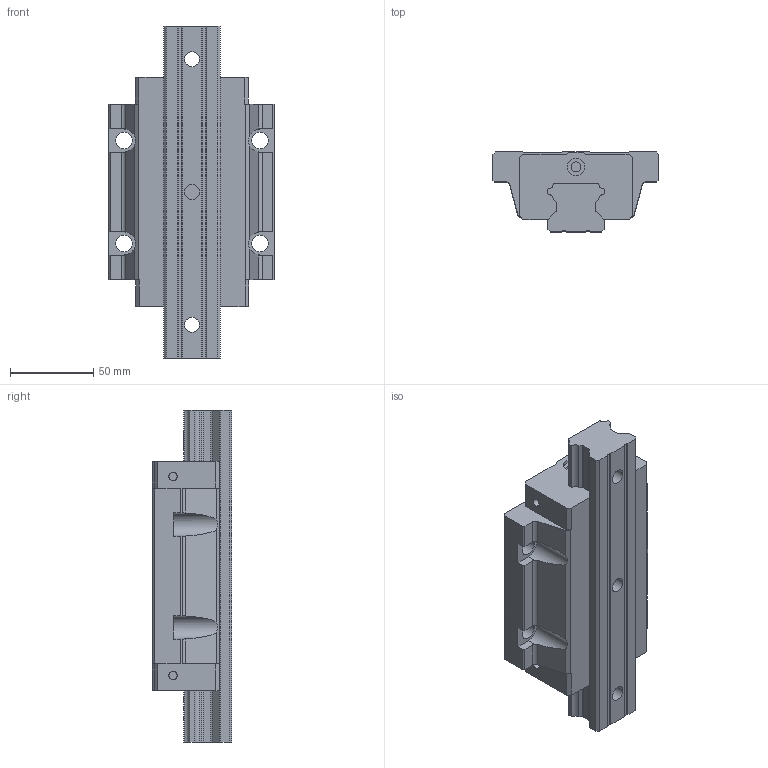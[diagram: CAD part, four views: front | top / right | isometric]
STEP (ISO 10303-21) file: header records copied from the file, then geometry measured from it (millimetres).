
FILE_DESCRIPTION((''),'2;1');
FILE_NAME('HGW35HC_ASM','2008-07-11T',('immo'),(''),'PRO/ENGINEER BY PARAMETRIC TECHNOLOGY CORPORATION, 2004360','PRO/ENGINEER BY PARAMETRIC TECHNOLOGY CORPORATION, 2004360','');
FILE_SCHEMA(('CONFIG_CONTROL_DESIGN'));
Length unit declared in the file: millimetre
Products named in the file (4): HGW35_1; HGR35_1; HGW35_ASM_1_ASM; HGW35HC_ASM
Assembly tree (3 placements, depth 3):
  HGW35HC_ASM
    HGW35_ASM_1_ASM
      HGW35_1
      HGR35_1
Bounding box: 100 x 48 x 200 mm (x, y, z)
Volume: 516978.9 mm3; surface area: 80886.7 mm2
Topology: 2 solids, 2 shells, 207 faces, 584 edges, 396 vertices
Faces by surface type: plane 135, cylinder 72
Entity records: 6920 total; most frequent: CARTESIAN_POINT 1280, ORIENTED_EDGE 1168, DIRECTION 1140, EDGE_CURVE 584, VECTOR 420, LINE 420, VERTEX_POINT 396, AXIS2_PLACEMENT_3D 360
